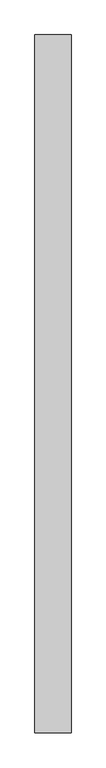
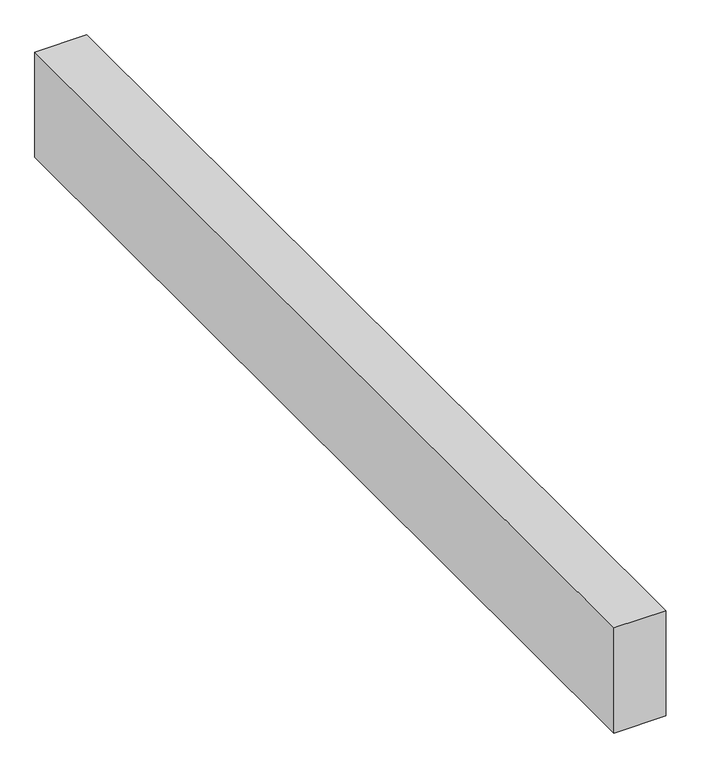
"""IFC4 building model written with IfcOpenShell, lengths in millimetres: proxy geometry."""

from ifc_helpers import new_model, si_unit, frame, origin, place, context, project, spatial, polyline, outline, extrude, source, transform, mapped, element, save


def structural_framing_01de5d5a(model_context):
    return source(origin(), model_context, "Body", "SweptSolid", [
        extrude(outline(polyline([(70.0, -1352.5), (-70.0, -1352.5), (-70.0, 1352.5), (70.0, 1352.5), (70.0, -1352.5)])), frame((0.0, 0.0, -300.0), z_axis=(0.0, 0.0, 1.0), x_axis=(1.0, 0.0, 0.0)), (0.0, 0.0, 1.0), 300.0),
    ])


if __name__ == "__main__":
    model = new_model("IFC4")
    model_context = context("Model", 3, world=origin())
    ifc_project = project(units=[si_unit("LENGTHUNIT", "METRE", prefix="MILLI")], contexts=[model_context])
    site = spatial("IfcSite", under=ifc_project)
    building = spatial("IfcBuilding", under=site)
    placement = place(None, origin())
    structural_framing_shape = structural_framing_01de5d5a(model_context)
    element("IfcBuildingElementProxy", 1, Name="Structural Framing", at=placement, inside=building, context=model_context, shape_type="MappedRepresentation", body=[
        mapped(structural_framing_shape, transform((0.0, 0.0, 0.0), x_axis=(1.0, 0.0, 0.0), y_axis=(0.0, 1.0, 0.0), z_axis=(0.0, 0.0, 1.0))),
    ])
    save(model, "model.ifc")
